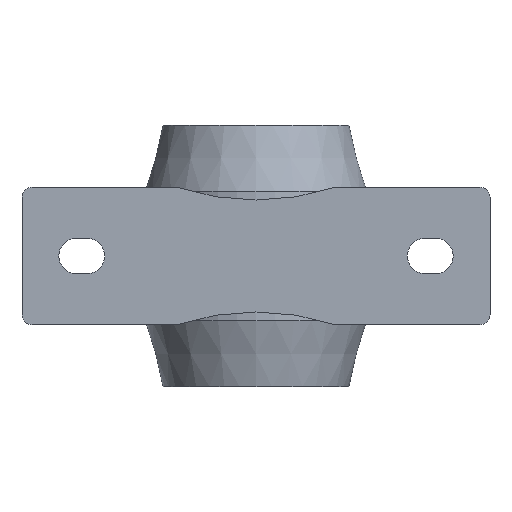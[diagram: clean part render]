
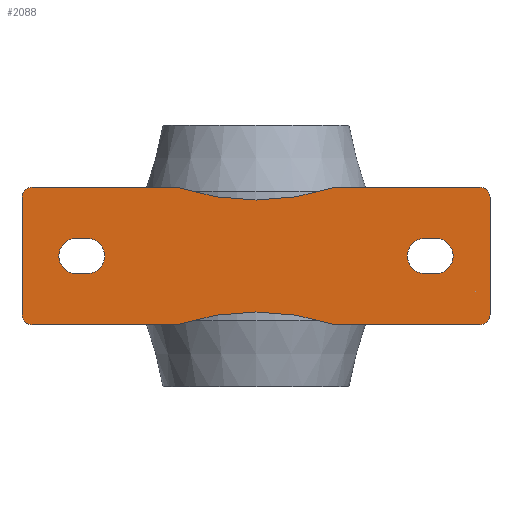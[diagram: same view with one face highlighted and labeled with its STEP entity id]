
A CAD part, front view. The second image highlights one B-rep face of the part: STEP entity #2088.
In plain terms, the highlighted planar face has unit normal (0, -1, 0).
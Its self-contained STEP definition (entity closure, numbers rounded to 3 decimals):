
#97=FACE_BOUND('',#302,.T.);
#98=FACE_BOUND('',#303,.T.);
#122=PLANE('',#2317);
#182=FACE_OUTER_BOUND('',#301,.T.);
#301=EDGE_LOOP('',(#1360,#1361,#1362,#1363,#1364,#1365,#1366,#1367,#1368,
#1369,#1370,#1371));
#302=EDGE_LOOP('',(#1372,#1373,#1374,#1375));
#303=EDGE_LOOP('',(#1376,#1377,#1378,#1379));
#479=LINE('',#3224,#608);
#480=LINE('',#3228,#609);
#481=LINE('',#3232,#610);
#482=LINE('',#3236,#611);
#483=LINE('',#3240,#612);
#484=LINE('',#3243,#613);
#485=LINE('',#3248,#614);
#486=LINE('',#3251,#615);
#487=LINE('',#3256,#616);
#488=LINE('',#3259,#617);
#608=VECTOR('',#2571,10.);
#609=VECTOR('',#2574,10.);
#610=VECTOR('',#2577,10.);
#611=VECTOR('',#2580,10.);
#612=VECTOR('',#2583,10.);
#613=VECTOR('',#2586,10.);
#614=VECTOR('',#2589,10.);
#615=VECTOR('',#2592,10.);
#616=VECTOR('',#2595,10.);
#617=VECTOR('',#2598,10.);
#738=CIRCLE('',#2318,4.);
#739=CIRCLE('',#2319,98.);
#740=CIRCLE('',#2320,4.);
#741=CIRCLE('',#2321,4.);
#742=CIRCLE('',#2322,98.);
#743=CIRCLE('',#2323,4.);
#744=CIRCLE('',#2324,7.);
#745=CIRCLE('',#2325,7.);
#746=CIRCLE('',#2326,7.);
#747=CIRCLE('',#2327,7.);
#850=VERTEX_POINT('',#3220);
#851=VERTEX_POINT('',#3221);
#852=VERTEX_POINT('',#3223);
#853=VERTEX_POINT('',#3225);
#854=VERTEX_POINT('',#3227);
#855=VERTEX_POINT('',#3229);
#856=VERTEX_POINT('',#3231);
#857=VERTEX_POINT('',#3233);
#858=VERTEX_POINT('',#3235);
#859=VERTEX_POINT('',#3237);
#860=VERTEX_POINT('',#3239);
#861=VERTEX_POINT('',#3241);
#862=VERTEX_POINT('',#3244);
#863=VERTEX_POINT('',#3245);
#864=VERTEX_POINT('',#3247);
#865=VERTEX_POINT('',#3249);
#866=VERTEX_POINT('',#3252);
#867=VERTEX_POINT('',#3253);
#868=VERTEX_POINT('',#3255);
#869=VERTEX_POINT('',#3257);
#1056=EDGE_CURVE('',#850,#851,#738,.T.);
#1057=EDGE_CURVE('',#850,#852,#479,.T.);
#1058=EDGE_CURVE('',#852,#853,#739,.T.);
#1059=EDGE_CURVE('',#853,#854,#480,.T.);
#1060=EDGE_CURVE('',#855,#854,#740,.T.);
#1061=EDGE_CURVE('',#855,#856,#481,.T.);
#1062=EDGE_CURVE('',#857,#856,#741,.T.);
#1063=EDGE_CURVE('',#858,#857,#482,.T.);
#1064=EDGE_CURVE('',#858,#859,#742,.T.);
#1065=EDGE_CURVE('',#860,#859,#483,.T.);
#1066=EDGE_CURVE('',#861,#860,#743,.T.);
#1067=EDGE_CURVE('',#861,#851,#484,.T.);
#1068=EDGE_CURVE('',#862,#863,#744,.T.);
#1069=EDGE_CURVE('',#863,#864,#485,.T.);
#1070=EDGE_CURVE('',#864,#865,#745,.T.);
#1071=EDGE_CURVE('',#865,#862,#486,.T.);
#1072=EDGE_CURVE('',#866,#867,#746,.T.);
#1073=EDGE_CURVE('',#867,#868,#487,.T.);
#1074=EDGE_CURVE('',#868,#869,#747,.T.);
#1075=EDGE_CURVE('',#869,#866,#488,.T.);
#1360=ORIENTED_EDGE('',*,*,#1056,.F.);
#1361=ORIENTED_EDGE('',*,*,#1057,.T.);
#1362=ORIENTED_EDGE('',*,*,#1058,.T.);
#1363=ORIENTED_EDGE('',*,*,#1059,.T.);
#1364=ORIENTED_EDGE('',*,*,#1060,.F.);
#1365=ORIENTED_EDGE('',*,*,#1061,.T.);
#1366=ORIENTED_EDGE('',*,*,#1062,.F.);
#1367=ORIENTED_EDGE('',*,*,#1063,.F.);
#1368=ORIENTED_EDGE('',*,*,#1064,.T.);
#1369=ORIENTED_EDGE('',*,*,#1065,.F.);
#1370=ORIENTED_EDGE('',*,*,#1066,.F.);
#1371=ORIENTED_EDGE('',*,*,#1067,.T.);
#1372=ORIENTED_EDGE('',*,*,#1068,.T.);
#1373=ORIENTED_EDGE('',*,*,#1069,.T.);
#1374=ORIENTED_EDGE('',*,*,#1070,.T.);
#1375=ORIENTED_EDGE('',*,*,#1071,.T.);
#1376=ORIENTED_EDGE('',*,*,#1072,.T.);
#1377=ORIENTED_EDGE('',*,*,#1073,.T.);
#1378=ORIENTED_EDGE('',*,*,#1074,.T.);
#1379=ORIENTED_EDGE('',*,*,#1075,.T.);
#2088=ADVANCED_FACE('',(#182,#97,#98),#122,.F.);
#2317=AXIS2_PLACEMENT_3D('',#3219,#2567,#2568);
#2318=AXIS2_PLACEMENT_3D('',#3222,#2569,#2570);
#2319=AXIS2_PLACEMENT_3D('',#3226,#2572,#2573);
#2320=AXIS2_PLACEMENT_3D('',#3230,#2575,#2576);
#2321=AXIS2_PLACEMENT_3D('',#3234,#2578,#2579);
#2322=AXIS2_PLACEMENT_3D('',#3238,#2581,#2582);
#2323=AXIS2_PLACEMENT_3D('',#3242,#2584,#2585);
#2324=AXIS2_PLACEMENT_3D('',#3246,#2587,#2588);
#2325=AXIS2_PLACEMENT_3D('',#3250,#2590,#2591);
#2326=AXIS2_PLACEMENT_3D('',#3254,#2593,#2594);
#2327=AXIS2_PLACEMENT_3D('',#3258,#2596,#2597);
#2567=DIRECTION('center_axis',(0.,1.,0.));
#2568=DIRECTION('ref_axis',(0.,0.,1.));
#2569=DIRECTION('center_axis',(0.,1.,0.));
#2570=DIRECTION('ref_axis',(-0.707,0.,-0.707));
#2571=DIRECTION('',(1.,0.,0.));
#2572=DIRECTION('center_axis',(0.,1.,0.));
#2573=DIRECTION('ref_axis',(1.,0.,0.));
#2574=DIRECTION('',(1.,0.,0.));
#2575=DIRECTION('center_axis',(0.,1.,0.));
#2576=DIRECTION('ref_axis',(0.707,0.,-0.707));
#2577=DIRECTION('',(0.,0.,1.));
#2578=DIRECTION('center_axis',(0.,1.,0.));
#2579=DIRECTION('ref_axis',(0.707,0.,0.707));
#2580=DIRECTION('',(1.,0.,0.));
#2581=DIRECTION('center_axis',(0.,1.,0.));
#2582=DIRECTION('ref_axis',(1.,0.,0.));
#2583=DIRECTION('',(1.,0.,0.));
#2584=DIRECTION('center_axis',(0.,1.,0.));
#2585=DIRECTION('ref_axis',(-0.707,0.,0.707));
#2586=DIRECTION('',(0.,0.,-1.));
#2587=DIRECTION('center_axis',(0.,1.,0.));
#2588=DIRECTION('ref_axis',(0.,0.,1.));
#2589=DIRECTION('',(1.,0.,0.));
#2590=DIRECTION('center_axis',(0.,1.,0.));
#2591=DIRECTION('ref_axis',(0.,0.,-1.));
#2592=DIRECTION('',(-1.,0.,0.));
#2593=DIRECTION('center_axis',(0.,1.,0.));
#2594=DIRECTION('ref_axis',(0.,0.,1.));
#2595=DIRECTION('',(-1.,0.,0.));
#2596=DIRECTION('center_axis',(0.,1.,0.));
#2597=DIRECTION('ref_axis',(0.,0.,-1.));
#2598=DIRECTION('',(1.,0.,0.));
#3219=CARTESIAN_POINT('Origin',(-48.8,-49.2,0.));
#3220=CARTESIAN_POINT('',(-88.,-49.2,-27.));
#3221=CARTESIAN_POINT('',(-92.,-49.2,-23.));
#3222=CARTESIAN_POINT('Origin',(-88.,-49.2,-23.));
#3223=CARTESIAN_POINT('',(-30.903,-49.2,-27.));
#3224=CARTESIAN_POINT('',(-92.,-49.2,-27.));
#3225=CARTESIAN_POINT('',(30.903,-49.2,-27.));
#3226=CARTESIAN_POINT('Origin',(0.,-49.2,-120.));
#3227=CARTESIAN_POINT('',(88.,-49.2,-27.));
#3228=CARTESIAN_POINT('',(-92.,-49.2,-27.));
#3229=CARTESIAN_POINT('',(92.,-49.2,-23.));
#3230=CARTESIAN_POINT('Origin',(88.,-49.2,-23.));
#3231=CARTESIAN_POINT('',(92.,-49.2,23.));
#3232=CARTESIAN_POINT('',(92.,-49.2,0.));
#3233=CARTESIAN_POINT('',(88.,-49.2,27.));
#3234=CARTESIAN_POINT('Origin',(88.,-49.2,23.));
#3235=CARTESIAN_POINT('',(30.903,-49.2,27.));
#3236=CARTESIAN_POINT('',(-10.,-49.2,27.));
#3237=CARTESIAN_POINT('',(-30.903,-49.2,27.));
#3238=CARTESIAN_POINT('Origin',(0.,-49.2,120.));
#3239=CARTESIAN_POINT('',(-88.,-49.2,27.));
#3240=CARTESIAN_POINT('',(-10.,-49.2,27.));
#3241=CARTESIAN_POINT('',(-92.,-49.2,23.));
#3242=CARTESIAN_POINT('Origin',(-88.,-49.2,23.));
#3243=CARTESIAN_POINT('',(-92.,-49.2,0.));
#3244=CARTESIAN_POINT('',(66.5,-49.2,-7.));
#3245=CARTESIAN_POINT('',(66.5,-49.2,7.));
#3246=CARTESIAN_POINT('Origin',(66.5,-49.2,0.));
#3247=CARTESIAN_POINT('',(70.5,-49.2,7.));
#3248=CARTESIAN_POINT('',(10.85,-49.2,7.));
#3249=CARTESIAN_POINT('',(70.5,-49.2,-7.));
#3250=CARTESIAN_POINT('Origin',(70.5,-49.2,0.));
#3251=CARTESIAN_POINT('',(8.85,-49.2,-7.));
#3252=CARTESIAN_POINT('',(-66.5,-49.2,7.));
#3253=CARTESIAN_POINT('',(-66.5,-49.2,-7.));
#3254=CARTESIAN_POINT('Origin',(-66.5,-49.2,0.));
#3255=CARTESIAN_POINT('',(-70.5,-49.2,-7.));
#3256=CARTESIAN_POINT('',(-59.65,-49.2,-7.));
#3257=CARTESIAN_POINT('',(-70.5,-49.2,7.));
#3258=CARTESIAN_POINT('Origin',(-70.5,-49.2,0.));
#3259=CARTESIAN_POINT('',(-57.65,-49.2,7.));
